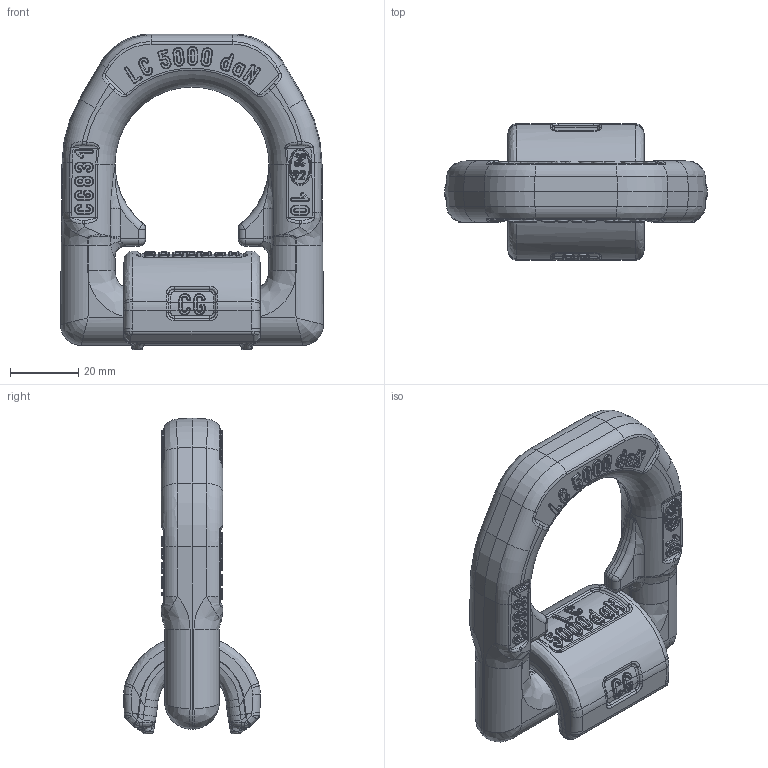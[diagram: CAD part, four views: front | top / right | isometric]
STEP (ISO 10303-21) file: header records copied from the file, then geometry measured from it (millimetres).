
FILE_DESCRIPTION(/* description */ (''),/* implementation_level */ '2;1');
FILE_NAME(/* name */ 'C831X05.stp',/* time_stamp */ '2013-06-05T16:09:12+02:00',/* author */ (''),/* organization */ (''),/* preprocessor_version */ 'ST-DEVELOPER v11',/* originating_system */ 'SIEMENS PLM Software NX 7.5',/* authorisation */ '');
FILE_SCHEMA (('CONFIG_CONTROL_DESIGN'));
Length unit declared in the file: millimetre
Products named in the file (1): ugii64F4wp3y
Bounding box: 76.89 x 40 x 92.36 mm (x, y, z)
Volume: 76385.6 mm3; surface area: 20999.1 mm2
Topology: 2 solids, 2 shells, 1765 faces, 4136 edges, 2418 vertices
Faces by surface type: cylinder 566, bspline 500, plane 417, torus 199, extrusion 57, sphere 16, cone 10
Entity records: 68465 total; most frequent: CARTESIAN_POINT 30860, ORIENTED_EDGE 8204, DIRECTION 7427, EDGE_CURVE 4102, AXIS2_PLACEMENT_3D 2948, VERTEX_POINT 2413, EDGE_LOOP 1839, ADVANCED_FACE 1765
